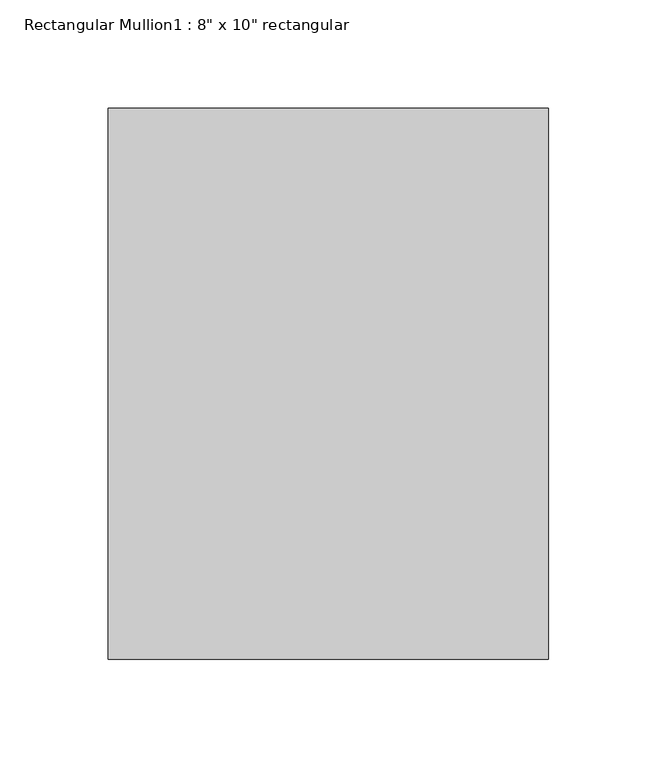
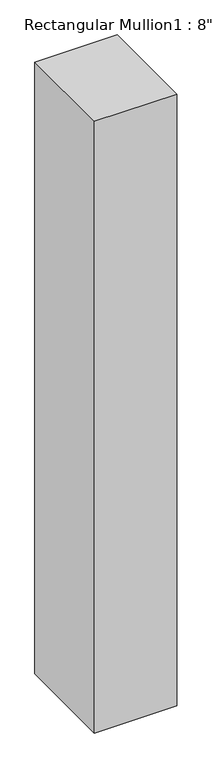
"""IFC4 building model written with IfcOpenShell, lengths in millimetres: member geometry."""

from ifc_helpers import new_model, si_unit, frame, origin, place, context, project, spatial, polyline, outline, extrude, source, transform, mapped, element, save


def member_ac1621ee(model_context):
    return source(origin(), model_context, "Body", "SweptSolid", [
        extrude(outline(polyline([(0.0, 127.0), (0.0, -127.0), (-203.2, -127.0), (-203.2, 127.0), (0.0, 127.0)])), frame((0.0, 0.0, -1593.8500097), z_axis=(0.0, 0.0, 1.0), x_axis=(1.0, 0.0, 0.0)), (0.0, 0.0, 1.0), 1593.8500097),
    ])


if __name__ == "__main__":
    model = new_model("IFC4")
    model_context = context("Model", 3, world=origin())
    ifc_project = project(units=[si_unit("LENGTHUNIT", "METRE", prefix="MILLI")], contexts=[model_context])
    site = spatial("IfcSite", under=ifc_project)
    building = spatial("IfcBuilding", under=site)
    placement = place(None, origin())
    member_shape = member_ac1621ee(model_context)
    element("IfcMember", 1, ObjectType="Rectangular Mullion1 : 8\" x 10\" rectangular", at=placement, inside=building, context=model_context, shape_type="MappedRepresentation", body=[
        mapped(member_shape, transform((0.0, 0.0, 0.0), x_axis=(1.0, 0.0, 0.0), y_axis=(0.0, 1.0, 0.0), z_axis=(0.0, 0.0, 1.0))),
    ])
    save(model, "model.ifc")
